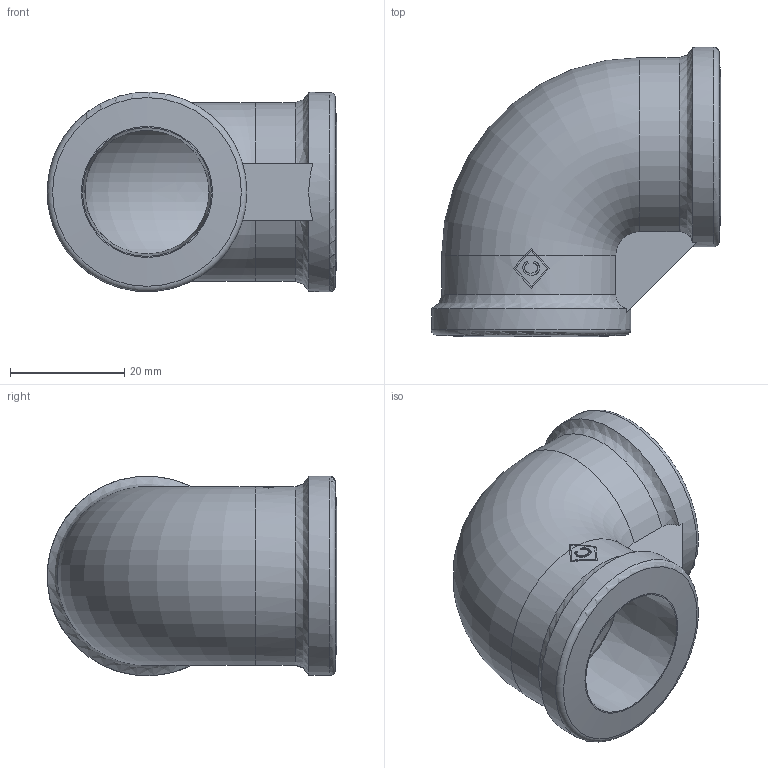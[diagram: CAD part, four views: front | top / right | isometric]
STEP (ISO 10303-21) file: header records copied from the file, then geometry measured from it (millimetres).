
FILE_DESCRIPTION((''),'2;1');
FILE_NAME('P:\Fastrack\53909_CRANE\Crane\Modified\Fig.151 Elbow\New 0.75 inch\151-0.75.stp','2009-09-18T11:41:52',('btaylor'),(''),'Autodesk Inventor 2008','Autodesk Inventor 2008','');
FILE_SCHEMA(('AUTOMOTIVE_DESIGN { 1 0 10303 214 1 1 1 1 }'));
Length unit declared in the file: millimetre
Products named in the file (1): 151-0.75
Bounding box: 50.78 x 50.78 x 34.99 mm (x, y, z)
Volume: 21164.6 mm3; surface area: 11726.8 mm2
Topology: 1 solids, 1 shells, 44 faces, 137 edges, 96 vertices
Faces by surface type: plane 15, bspline 12, cylinder 7, torus 6, cone 4
Full cylindrical faces by diameter (mm): 35 x2
Entity records: 2932 total; most frequent: CARTESIAN_POINT 1771, ORIENTED_EDGE 252, DIRECTION 206, EDGE_CURVE 126, VERTEX_POINT 94, AXIS2_PLACEMENT_3D 89, EDGE_LOOP 56, FACE_OUTER_BOUND 44
